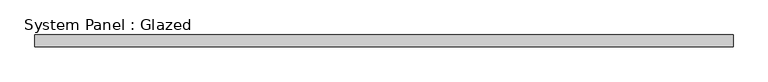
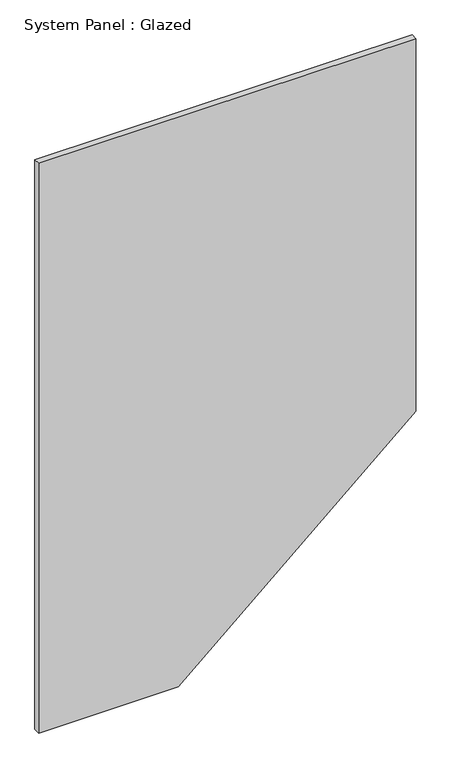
"""IFC4 building model written with IfcOpenShell, lengths in millimetres: plate geometry, System Panel : Glazed."""

from ifc_helpers import new_model, si_unit, frame, origin, place, context, project, spatial, polyline, outline, extrude, source, transform, mapped, element, save


def system_panel_glazed_3121c9f4(model_context):
    return source(origin(), model_context, "Body", "SweptSolid", [
        extrude(outline(polyline([(0.0, -735.8695652), (0.0, -190.0578724), (811.8136851, 735.8695652), (2350.0, 735.8695652), (2350.0, -735.8695652), (0.0, -735.8695652)])), frame((0.0, 24.5, 0.0), z_axis=(0.0, 1.0, 0.0), x_axis=(0.0, 0.0, 1.0)), (0.0, 0.0, 1.0), 25.0),
    ])


if __name__ == "__main__":
    model = new_model("IFC4")
    model_context = context("Model", 3, world=origin())
    ifc_project = project(units=[si_unit("LENGTHUNIT", "METRE", prefix="MILLI")], contexts=[model_context])
    site = spatial("IfcSite", under=ifc_project)
    building = spatial("IfcBuilding", under=site)
    placement = place(None, origin())
    system_panel_glazed_shape = system_panel_glazed_3121c9f4(model_context)
    element("IfcPlate", 1, ObjectType="System Panel : Glazed", at=placement, inside=building, context=model_context, shape_type="MappedRepresentation", body=[
        mapped(system_panel_glazed_shape, transform((0.0, 0.0, 0.0), x_axis=(1.0, 0.0, 0.0), y_axis=(0.0, 1.0, 0.0), z_axis=(0.0, 0.0, 1.0))),
    ])
    save(model, "model.ifc")
